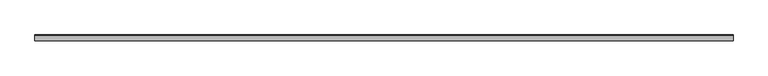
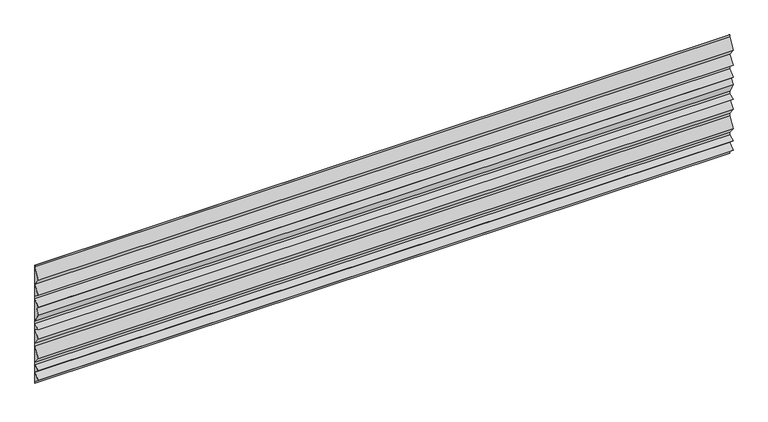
"""IFC4 building model written with IfcOpenShell, lengths in millimetres: plate geometry, ATELIERS 3S_GLACE BOSSONS 900_HORIZONTAL : AZURO."""

from ifc_helpers import new_model, si_unit, frame, origin, place, context, project, spatial, polyline, outline, extrude, source, transform, mapped, element, save


def plate_3dbbf8c4(model_context):
    return source(origin(), model_context, "Body", "SweptSolid", [
        extrude(outline(polyline([(-0.8, 0.0), (-0.8, 13.6571921), (-41.1389442, 48.9537682), (-1.1299144, 83.9616693), (-41.3196766, 120.1324554), (-0.75, 140.4172937), (-0.75, 159.6029872), (-40.894933, 209.8753728), (-0.75, 284.1434988), (-0.75, 303.7098804), (-40.927373, 358.9537682), (-1.1272871, 413.6788863), (-41.677051, 433.9537682), (-0.75, 454.4172937), (-0.75, 473.6882038), (-40.8498759, 543.9310674), (-20.9125704, 583.8056784), (-41.0606602, 603.9537682), (-0.75, 644.2644284), (-0.75, 663.5787682), (-41.0175919, 693.7794621), (-0.9138155, 753.9351267), (-40.8778146, 808.8856254), (-0.8, 887.0373638), (-0.8, 900.0), (0.0, 900.0), (0.0, 0.0), (-0.8, 0.0)])), frame((-2500.0, 0.0, 0.0), z_axis=(1.0, 0.0, 0.0), x_axis=(0.0, 1.0, 0.0)), (0.0, 0.0, 1.0), 5000.0),
    ])


if __name__ == "__main__":
    model = new_model("IFC4")
    model_context = context("Model", 3, world=origin())
    ifc_project = project(units=[si_unit("LENGTHUNIT", "METRE", prefix="MILLI")], contexts=[model_context])
    site = spatial("IfcSite", under=ifc_project)
    building = spatial("IfcBuilding", under=site)
    placement = place(None, origin())
    plate_shape = plate_3dbbf8c4(model_context)
    element("IfcPlate", 1, ObjectType="ATELIERS 3S_GLACE BOSSONS 900_HORIZONTAL : AZURO", at=placement, inside=building, context=model_context, shape_type="MappedRepresentation", body=[
        mapped(plate_shape, transform((0.0, 0.0, 0.0), x_axis=(1.0, 0.0, 0.0), y_axis=(0.0, 1.0, 0.0), z_axis=(0.0, 0.0, 1.0))),
    ])
    save(model, "model.ifc")
